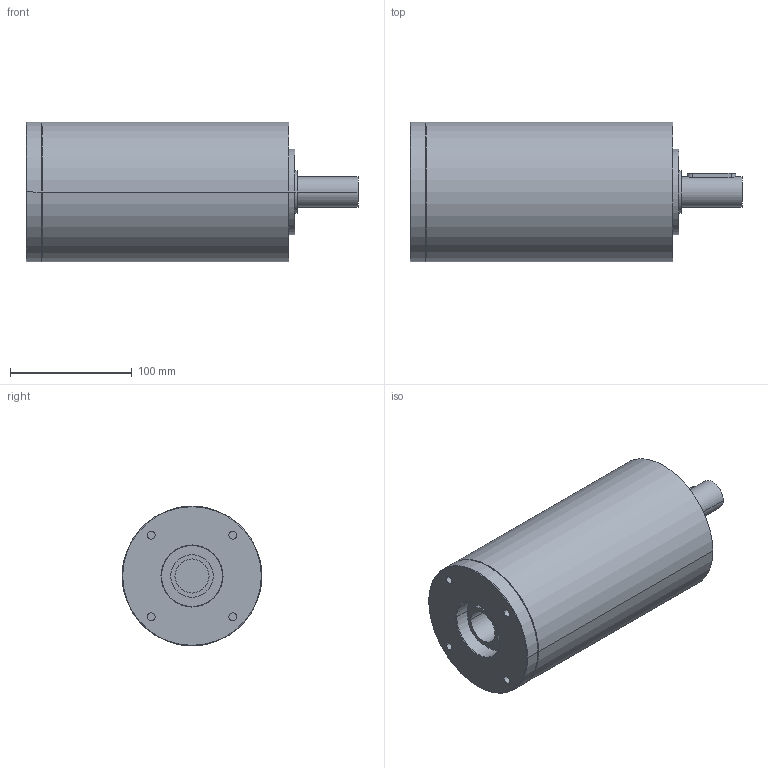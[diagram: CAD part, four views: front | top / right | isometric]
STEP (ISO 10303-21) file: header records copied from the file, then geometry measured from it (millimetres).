
FILE_DESCRIPTION(('CoCreate Modeling STEP Export'),'2;1');
FILE_NAME('GPR125_ig-48-64-80-100-140-196-245-343_25_B14_28_P19.stp','2014-08-26T14:22:58',(''),(''),'CoCreate Modeling STEP processor for AP214 (Solid Model)','CoCreate Modeling 16.00C 25-Feb-2009 (C) Parametric Technology GmbH','');
FILE_SCHEMA(('AUTOMOTIVE_DESIGN { 1 0 10303 214 1 1 1 1 }'));
Length unit declared in the file: millimetre
Products named in the file (2): GPR125_ig-48-64-80-100-140-196-245-343_25_B14_28_P19
Assembly tree (1 placements, depth 2):
  GPR125_ig-48-64-80-100-140-196-245-343_25_B14_28_P19
    GPR125_ig-48-64-80-100-140-196-245-343_25_B14_28_P19
Bounding box: 273 x 115 x 115 mm (x, y, z)
Volume: 2229962.2 mm3; surface area: 115852.5 mm2
Topology: 1 solids, 1 shells, 66 faces, 164 edges, 114 vertices
Faces by surface type: cylinder 36, plane 20, cone 10
Entity records: 1675 total; most frequent: ORIENTED_EDGE 324, CARTESIAN_POINT 316, DIRECTION 216, EDGE_CURVE 162, VERTEX_POINT 114, AXIS2_PLACEMENT_3D 82, EDGE_LOOP 82, FACE_OUTER_BOUND 66
